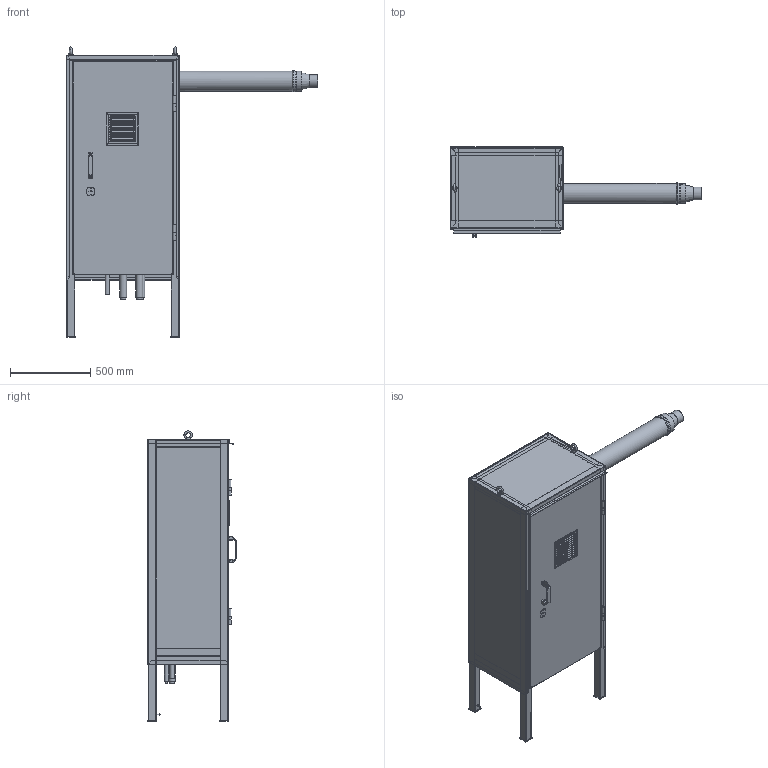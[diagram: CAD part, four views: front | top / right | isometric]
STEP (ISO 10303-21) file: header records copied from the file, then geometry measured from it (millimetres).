
FILE_DESCRIPTION(('STEP AP214'), '1');
FILE_NAME('VS10-50 LUNA DUO-TEC 1.35-1.60 挓鎀霠罻 3D 斁麧錪', '', ('UNSPECIFIED'), ('UNSPECIFIED'), 'C3D Converter', 'C3D Toolkit', '');
FILE_SCHEMA(('AUTOMOTIVE_DESIGN { 1 0 10303 214 3 1 1}'));
Length unit declared in the file: millimetre
Products named in the file (1): VS10-50
Bounding box: 1568.38 x 559.41 x 1805.87 mm (x, y, z)
Volume: 7485885.3 mm3; surface area: 11695482.3 mm2
Topology: 16 solids, 16 shells, 1171 faces, 3007 edges, 1824 vertices
Faces by surface type: plane 712, cylinder 296, torus 78, sphere 52, cone 23, bspline 10
Full cylindrical faces by diameter (mm): 4 x4, 5 x2, 6.2 x2, 8 x3, 10 x1, 10.106 x3, 11 x2, 12 x3, 12.5 x4, 13 x4, 18 x3, 21.2 x1, 24 x2, 26 x1, 26.441 x1, 27.6 x2, 33.249 x2, 34 x2, 42 x2, 76 x1, 80 x1, 100 x1, 124 x5, 125 x4
Entity records: 52302 total; most frequent: CARTESIAN_POINT 15051, DIRECTION 5787, ORIENTED_EDGE 5708, EDGE_CURVE 2854, AXIS2_PLACEMENT_3D 2102, VERTEX_POINT 1820, LINE 1583, VECTOR 1583
